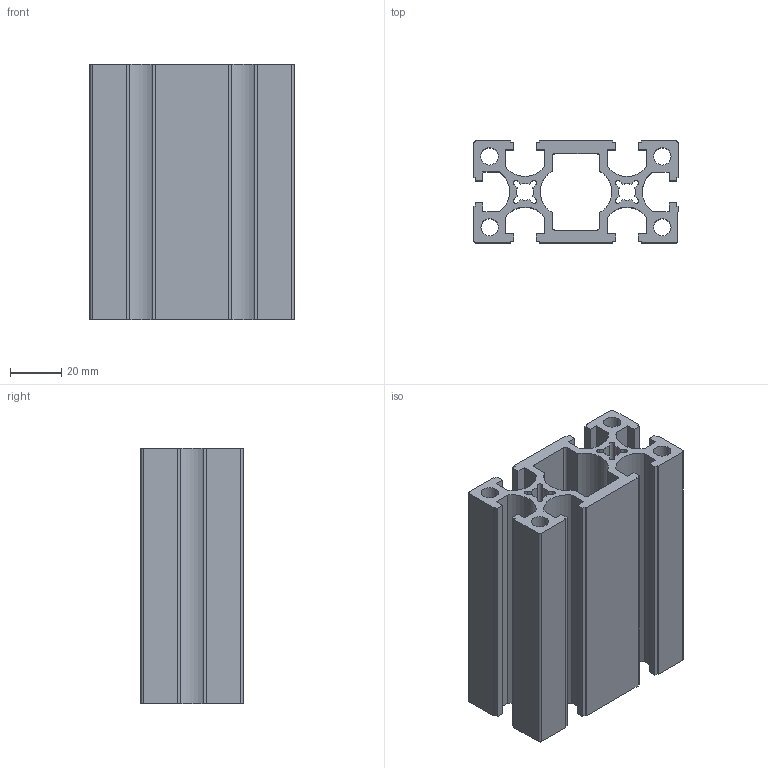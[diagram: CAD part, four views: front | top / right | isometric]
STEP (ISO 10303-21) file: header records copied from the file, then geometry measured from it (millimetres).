
FILE_DESCRIPTION(/* description */ (''),/* implementation_level */ '2;1');
FILE_NAME(/* name */ '\\AM-PUBLIC\Share\3D新型錄-2019整理\01.AM-鋁擠\8系列\AM8-H4080_100L.stp',/* time_stamp */ '2020-08-03T16:54:46+08:00',/* author */ ('AM'),/* organization */ (''),/* preprocessor_version */ 'ST-DEVELOPER v16.5',/* originating_system */ 'Autodesk Inventor 2017',/* authorisation */ '');
FILE_SCHEMA (('AUTOMOTIVE_DESIGN { 1 0 10303 214 3 1 1 }'));
Length unit declared in the file: millimetre
Products named in the file (1): 零件2
Bounding box: 80.02 x 40.04 x 100 mm (x, y, z)
Volume: 122091.3 mm3; surface area: 74733.5 mm2
Topology: 1 solids, 1 shells, 130 faces, 384 edges, 256 vertices
Faces by surface type: plane 94, cylinder 36
Full cylindrical faces by diameter (mm): 6.8 x4
Entity records: 4352 total; most frequent: CARTESIAN_POINT 767, ORIENTED_EDGE 760, DIRECTION 714, EDGE_CURVE 380, LINE 308, VECTOR 308, VERTEX_POINT 256, AXIS2_PLACEMENT_3D 203
